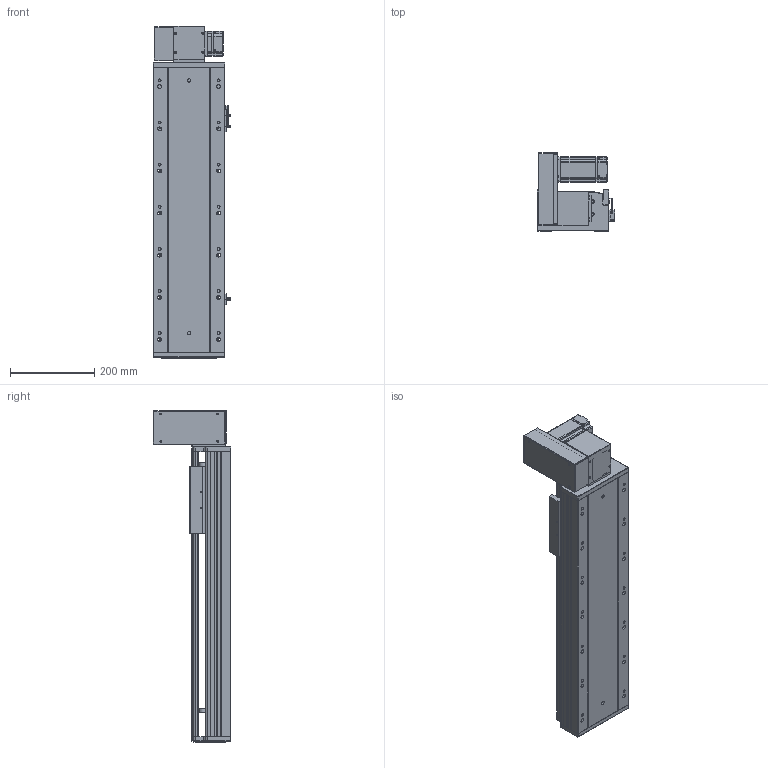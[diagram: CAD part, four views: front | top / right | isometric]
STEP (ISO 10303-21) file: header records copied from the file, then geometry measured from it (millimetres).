
FILE_DESCRIPTION (( 'STEP AP203' ), '1' );
FILE_NAME ('RY170-T-300-UL-P400W.SLDASM_400.step', '2021-03-02T02:12:05', ( '盈信电脑' ), ( '东莞市道滘镇水果街19号' ), 'SwSTEP 2.0', 'SolidWorks 2012', '' );
FILE_SCHEMA (( 'CONFIG_CONTROL_DESIGN' ));
Products named in the file (18): RY170-T-300-UL-P400W.SLDASM_400; RY170肮祭謫萇儂欶; RY170-T蹟翐M4; RY170同步轮电机安装板(400W); 15; 滅袉蝶18-10; RY170-T肮祭謫裔啣; RY170-T肮祭湍揤踡輸2; RY120-T主同步轮轴承压盖; RY170翋肮祭謫釱; RY170肮祭謫ヶ裔啣; RY170-T肮祭湍揤踡輸1; 覜茼ん672; RY170-T-300肮祭謫倰第裔啣-DL_400; RY170綴裔啣; RY170外置感应片(200共用）; RY170肮祭湍臏賑輸; RY170-T-300肮祭謫倰第菁釱-DL_400
Assembly tree (20 placements, depth 2):
  RY170-T-300-UL-P400W.SLDASM_400
    RY170-T-300肮祭謫倰第菁釱-DL_400
    RY170肮祭湍臏賑輸
    RY170-T-300肮祭謫倰第裔啣-DL_400
    RY170綴裔啣
    覜茼ん672  x3
    RY170外置感应片(200共用）
    RY170肮祭謫ヶ裔啣
    RY170翋肮祭謫釱
    RY170-T肮祭湍揤踡輸1
    RY170-T肮祭湍揤踡輸2
    RY170-T肮祭謫裔啣
    滅袉蝶18-10  x2
    RY120-T主同步轮轴承压盖
    RY170肮祭謫萇儂欶
    RY170同步轮电机安装板(400W)
    RY170-T蹟翐M4
    15
Bounding box: 183.7 x 184 x 788 mm (x, y, z)
Volume: 4366264.8 mm3; surface area: 1438907.9 mm2
Topology: 20 solids, 20 shells, 2485 faces, 6926 edges, 4459 vertices
Faces by surface type: plane 1145, cylinder 1110, cone 200, bspline 30
Entity records: 79168 total; most frequent: CARTESIAN_POINT 17564, ORIENTED_EDGE 12568, DIRECTION 12334, EDGE_CURVE 6284, AXIS2_PLACEMENT_3D 4311, VERTEX_POINT 4127, LINE 3712, VECTOR 3712
